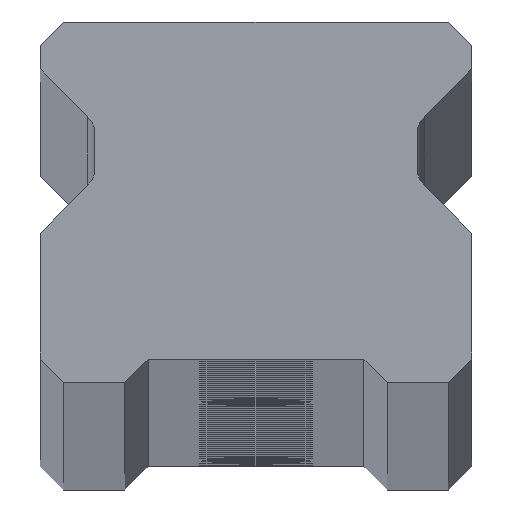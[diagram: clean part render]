
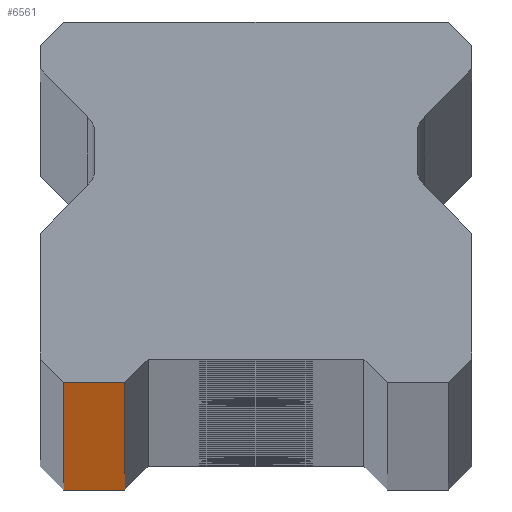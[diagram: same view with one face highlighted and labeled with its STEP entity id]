
A CAD part, top view. The second image highlights one B-rep face of the part: STEP entity #6561.
In plain terms, the highlighted planar face has unit normal (0, -1, 0).
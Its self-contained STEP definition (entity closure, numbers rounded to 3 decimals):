
#165 = CARTESIAN_POINT ( 'NONE',  ( 11.5, 0., 1640. ) ) ;
#452 = VECTOR ( 'NONE', #5325, 1000. ) ;
#769 = VECTOR ( 'NONE', #6724, 1000. ) ;
#1369 = EDGE_CURVE ( 'NONE', #1418, #7889, #4636, .T. ) ;
#1418 = VERTEX_POINT ( 'NONE', #5337 ) ;
#1641 = VERTEX_POINT ( 'NONE', #4059 ) ;
#1673 = VECTOR ( 'NONE', #7559, 1000. ) ;
#1883 = ORIENTED_EDGE ( 'NONE', *, *, #1369, .T. ) ;
#2047 = CARTESIAN_POINT ( 'NONE',  ( -7., 0., 1640. ) ) ;
#2705 = DIRECTION ( 'NONE',  ( -1., 0., 0. ) ) ;
#2945 = AXIS2_PLACEMENT_3D ( 'NONE', #165, #7054, #2705 ) ;
#3047 = VECTOR ( 'NONE', #4452, 1000. ) ;
#3180 = ORIENTED_EDGE ( 'NONE', *, *, #8712, .F. ) ;
#3479 = EDGE_LOOP ( 'NONE', ( #4967, #1883, #3180, #9051 ) ) ;
#4059 = CARTESIAN_POINT ( 'NONE',  ( -10.25, 0., -1640. ) ) ;
#4113 = FACE_OUTER_BOUND ( 'NONE', #3479, .T. ) ;
#4452 = DIRECTION ( 'NONE',  ( 1., 0., 0. ) ) ;
#4636 = LINE ( 'NONE', #5838, #1673 ) ;
#4732 = LINE ( 'NONE', #10383, #452 ) ;
#4967 = ORIENTED_EDGE ( 'NONE', *, *, #6496, .T. ) ;
#5325 = DIRECTION ( 'NONE',  ( 1., 0., 0. ) ) ;
#5337 = CARTESIAN_POINT ( 'NONE',  ( -7., 0., -1640. ) ) ;
#5387 = CARTESIAN_POINT ( 'NONE',  ( -10.25, 0., 1640. ) ) ;
#5838 = CARTESIAN_POINT ( 'NONE',  ( -7., 0., -1640. ) ) ;
#6285 = EDGE_CURVE ( 'NONE', #10784, #1641, #10872, .T. ) ;
#6496 = EDGE_CURVE ( 'NONE', #1641, #1418, #8091, .T. ) ;
#6561 = ADVANCED_FACE ( 'NONE', ( #4113 ), #10400, .F. ) ;
#6724 = DIRECTION ( 'NONE',  ( 0., 0., -1. ) ) ;
#7054 = DIRECTION ( 'NONE',  ( 0., 1., 0. ) ) ;
#7559 = DIRECTION ( 'NONE',  ( 0., 0., 1. ) ) ;
#7889 = VERTEX_POINT ( 'NONE', #2047 ) ;
#7897 = CARTESIAN_POINT ( 'NONE',  ( 11.5, 0., -1640. ) ) ;
#8091 = LINE ( 'NONE', #7897, #3047 ) ;
#8411 = CARTESIAN_POINT ( 'NONE',  ( -10.25, 0., 1640. ) ) ;
#8712 = EDGE_CURVE ( 'NONE', #10784, #7889, #4732, .T. ) ;
#9051 = ORIENTED_EDGE ( 'NONE', *, *, #6285, .T. ) ;
#10383 = CARTESIAN_POINT ( 'NONE',  ( 11.5, 0., 1640. ) ) ;
#10400 = PLANE ( 'NONE',  #2945 ) ;
#10784 = VERTEX_POINT ( 'NONE', #5387 ) ;
#10872 = LINE ( 'NONE', #8411, #769 ) ;
